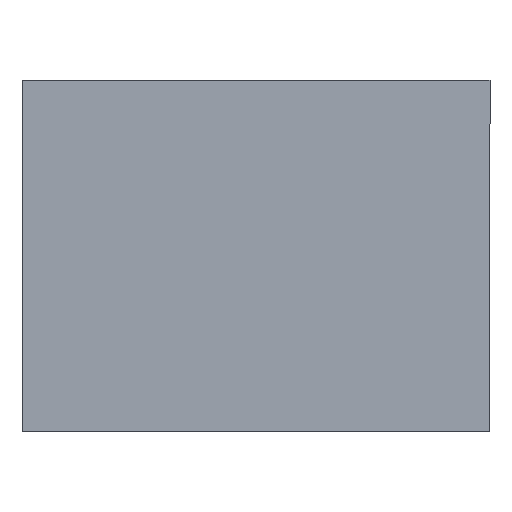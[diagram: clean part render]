
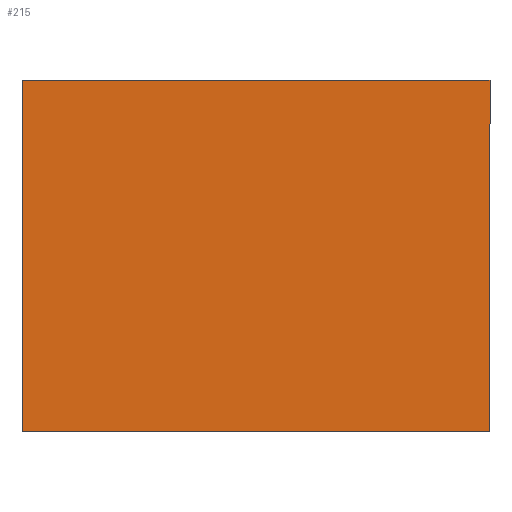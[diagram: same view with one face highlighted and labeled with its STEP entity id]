
A CAD part, front view. The second image highlights one B-rep face of the part: STEP entity #215.
In plain terms, the highlighted planar face has unit normal (0, -1, 0).
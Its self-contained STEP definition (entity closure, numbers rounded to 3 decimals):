
#73=CARTESIAN_POINT('',(0.,0.0,-30.2));
#74=VERTEX_POINT('',#73);
#75=CARTESIAN_POINT('',(0.0,0.0,0.0));
#76=VERTEX_POINT('',#75);
#77=CARTESIAN_POINT('',(0.,0.0,-30.2));
#78=DIRECTION('',(0.0,0.0,1.0));
#79=VECTOR('',#78,30.2);
#80=LINE('',#77,#79);
#81=EDGE_CURVE('',#74,#76,#80,.T.);
#113=CARTESIAN_POINT('',(40.2,0.0,-30.2));
#114=VERTEX_POINT('',#113);
#115=CARTESIAN_POINT('',(40.2,0.0,-30.2));
#116=DIRECTION('',(-1.0,0.0,0.0));
#117=VECTOR('',#116,40.2);
#118=LINE('',#115,#117);
#119=EDGE_CURVE('',#114,#74,#118,.T.);
#144=CARTESIAN_POINT('',(40.2,0.0,0.));
#145=VERTEX_POINT('',#144);
#146=CARTESIAN_POINT('',(40.2,0.0,0.));
#147=DIRECTION('',(0.0,0.0,-1.0));
#148=VECTOR('',#147,30.2);
#149=LINE('',#146,#148);
#150=EDGE_CURVE('',#145,#114,#149,.T.);
#175=CARTESIAN_POINT('',(0.0,0.0,0.0));
#176=DIRECTION('',(1.0,0.0,0.0));
#177=VECTOR('',#176,40.2);
#178=LINE('',#175,#177);
#179=EDGE_CURVE('',#76,#145,#178,.T.);
#204=CARTESIAN_POINT('',(20.1,0.0,-15.1));
#205=DIRECTION('',(0.0,-1.0,0.0));
#206=DIRECTION('',(0.0,0.0,-1.0));
#207=AXIS2_PLACEMENT_3D('',#204,#205,#206);
#208=PLANE('',#207);
#209=ORIENTED_EDGE('',*,*,#179,.F.);
#210=ORIENTED_EDGE('',*,*,#81,.F.);
#211=ORIENTED_EDGE('',*,*,#119,.F.);
#212=ORIENTED_EDGE('',*,*,#150,.F.);
#213=EDGE_LOOP('',(#209,#210,#211,#212));
#214=FACE_OUTER_BOUND('',#213,.T.);
#215=ADVANCED_FACE('',(#214),#208,.T.);
